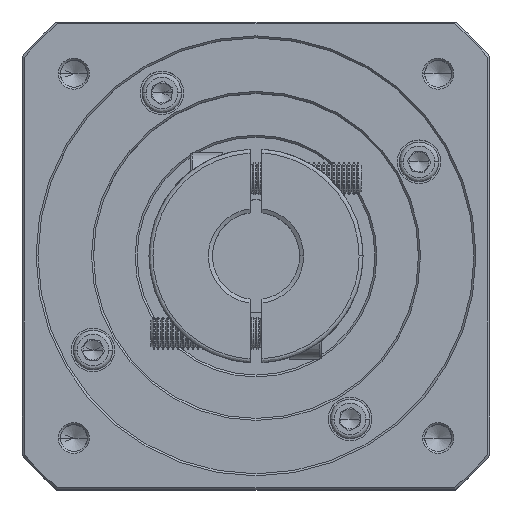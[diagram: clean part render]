
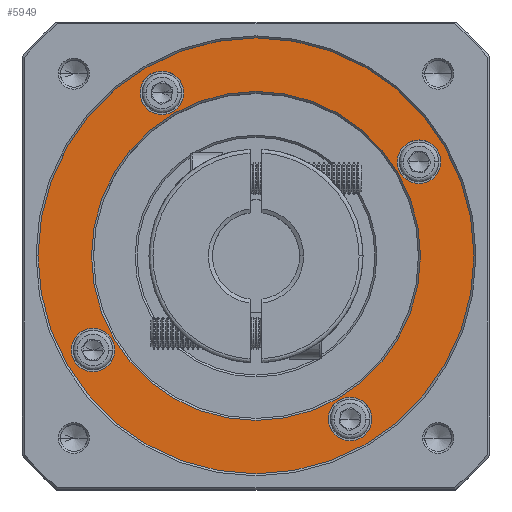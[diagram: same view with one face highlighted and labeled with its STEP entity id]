
A CAD part, top view. The second image highlights one B-rep face of the part: STEP entity #5949.
In plain terms, the highlighted planar face has unit normal (0, 0, 1).
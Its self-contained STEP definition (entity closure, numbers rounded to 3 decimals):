
#337 = CARTESIAN_POINT ( 'NONE',  ( -185.069, 37.577, 88.309 ) ) ;
#419 = EDGE_CURVE ( 'NONE', #9723, #69107, #16807, .T. ) ;
#696 = CARTESIAN_POINT ( 'NONE',  ( -162.182, 102.463, 88.309 ) ) ;
#2002 = CARTESIAN_POINT ( 'NONE',  ( -143.932, 61.327, 88.309 ) ) ;
#2693 = CIRCLE ( 'NONE', #75234, 5.5 ) ;
#3544 = DIRECTION ( 'NONE',  ( 0., 0., 1. ) ) ;
#5425 = EDGE_CURVE ( 'NONE', #46504, #36076, #98939, .T. ) ;
#5807 = AXIS2_PLACEMENT_3D ( 'NONE', #15277, #3544, #102296 ) ;
#5811 = AXIS2_PLACEMENT_3D ( 'NONE', #337, #128366, #40549 ) ;
#5949 = ADVANCED_FACE ( 'NONE', ( #39740, #24234, #47445, #7226, #73811, #56744 ), #40525, .T. ) ;
#6702 = AXIS2_PLACEMENT_3D ( 'NONE', #33035, #112175, #73301 ) ;
#7226 = FACE_BOUND ( 'NONE', #11994, .T. ) ;
#9723 = VERTEX_POINT ( 'NONE', #117013 ) ;
#10244 = CIRCLE ( 'NONE', #98688, 5.5 ) ;
#11163 = CIRCLE ( 'NONE', #60815, 41.5 ) ;
#11943 = ORIENTED_EDGE ( 'NONE', *, *, #92673, .T. ) ;
#11994 = EDGE_LOOP ( 'NONE', ( #19632, #46189 ) ) ;
#12181 = DIRECTION ( 'NONE',  ( 1., 0., 0. ) ) ;
#13741 = ORIENTED_EDGE ( 'NONE', *, *, #41907, .T. ) ;
#14972 = VERTEX_POINT ( 'NONE', #51881 ) ;
#15277 = CARTESIAN_POINT ( 'NONE',  ( -143.932, 61.327, 88.309 ) ) ;
#16807 = CIRCLE ( 'NONE', #23275, 5.5 ) ;
#18294 = CARTESIAN_POINT ( 'NONE',  ( -120.182, 20.191, 88.309 ) ) ;
#18725 = ORIENTED_EDGE ( 'NONE', *, *, #81546, .T. ) ;
#19548 = DIRECTION ( 'NONE',  ( 0., 0., -1. ) ) ;
#19632 = ORIENTED_EDGE ( 'NONE', *, *, #63250, .T. ) ;
#20990 = DIRECTION ( 'NONE',  ( 0., 0., -1. ) ) ;
#22978 = DIRECTION ( 'NONE',  ( 0., 0., -1. ) ) ;
#23275 = AXIS2_PLACEMENT_3D ( 'NONE', #30900, #20990, #102771 ) ;
#24234 = FACE_BOUND ( 'NONE', #110293, .T. ) ;
#26481 = EDGE_CURVE ( 'NONE', #85573, #66626, #11163, .T. ) ;
#27582 = VERTEX_POINT ( 'NONE', #72362 ) ;
#28963 = CIRCLE ( 'NONE', #118243, 5.5 ) ;
#30665 = DIRECTION ( 'NONE',  ( 0., 0., -1. ) ) ;
#30739 = VERTEX_POINT ( 'NONE', #111255 ) ;
#30900 = CARTESIAN_POINT ( 'NONE',  ( -167.682, 102.463, 88.309 ) ) ;
#31172 = VERTEX_POINT ( 'NONE', #32369 ) ;
#31605 = ORIENTED_EDGE ( 'NONE', *, *, #419, .T. ) ;
#32369 = CARTESIAN_POINT ( 'NONE',  ( -190.569, 37.577, 88.309 ) ) ;
#32883 = CARTESIAN_POINT ( 'NONE',  ( -102.796, 85.077, 88.309 ) ) ;
#33035 = CARTESIAN_POINT ( 'NONE',  ( -120.182, 20.191, 88.309 ) ) ;
#35453 = AXIS2_PLACEMENT_3D ( 'NONE', #105286, #64990, #114694 ) ;
#36076 = VERTEX_POINT ( 'NONE', #47706 ) ;
#36524 = CARTESIAN_POINT ( 'NONE',  ( -125.682, 20.191, 88.309 ) ) ;
#37277 = DIRECTION ( 'NONE',  ( 1., 0., 0. ) ) ;
#38143 = DIRECTION ( 'NONE',  ( 1., 0., 0. ) ) ;
#38211 = CIRCLE ( 'NONE', #41260, 5.5 ) ;
#38233 = EDGE_LOOP ( 'NONE', ( #127459, #31605 ) ) ;
#39740 = FACE_OUTER_BOUND ( 'NONE', #57928, .T. ) ;
#40525 = PLANE ( 'NONE',  #51488 ) ;
#40549 = DIRECTION ( 'NONE',  ( 1., 0., 0. ) ) ;
#40602 = CARTESIAN_POINT ( 'NONE',  ( -143.932, 61.327, 88.309 ) ) ;
#41260 = AXIS2_PLACEMENT_3D ( 'NONE', #71237, #123453, #54225 ) ;
#41816 = CIRCLE ( 'NONE', #6702, 5.5 ) ;
#41907 = EDGE_CURVE ( 'NONE', #66626, #85573, #87735, .T. ) ;
#42255 = CARTESIAN_POINT ( 'NONE',  ( -179.569, 37.577, 88.309 ) ) ;
#45873 = EDGE_CURVE ( 'NONE', #14972, #27582, #10244, .T. ) ;
#46189 = ORIENTED_EDGE ( 'NONE', *, *, #103500, .T. ) ;
#46504 = VERTEX_POINT ( 'NONE', #50283 ) ;
#47445 = FACE_BOUND ( 'NONE', #74725, .T. ) ;
#47639 = AXIS2_PLACEMENT_3D ( 'NONE', #57605, #87082, #118585 ) ;
#47706 = CARTESIAN_POINT ( 'NONE',  ( -198.932, 61.327, 88.309 ) ) ;
#50283 = CARTESIAN_POINT ( 'NONE',  ( -88.932, 61.327, 88.309 ) ) ;
#50433 = DIRECTION ( 'NONE',  ( 1., 0., 0. ) ) ;
#51488 = AXIS2_PLACEMENT_3D ( 'NONE', #2002, #99467, #50433 ) ;
#51881 = CARTESIAN_POINT ( 'NONE',  ( -97.296, 85.077, 88.309 ) ) ;
#53726 = VERTEX_POINT ( 'NONE', #36524 ) ;
#54225 = DIRECTION ( 'NONE',  ( 1., 0., 0. ) ) ;
#56744 = FACE_BOUND ( 'NONE', #111761, .T. ) ;
#57266 = DIRECTION ( 'NONE',  ( 1., 0., 0. ) ) ;
#57605 = CARTESIAN_POINT ( 'NONE',  ( -143.932, 61.327, 88.309 ) ) ;
#57928 = EDGE_LOOP ( 'NONE', ( #99968, #18725 ) ) ;
#58108 = CARTESIAN_POINT ( 'NONE',  ( -167.682, 102.463, 88.309 ) ) ;
#60791 = AXIS2_PLACEMENT_3D ( 'NONE', #18294, #19548, #38143 ) ;
#60815 = AXIS2_PLACEMENT_3D ( 'NONE', #40602, #30665, #99960 ) ;
#61551 = CIRCLE ( 'NONE', #60791, 5.5 ) ;
#63250 = EDGE_CURVE ( 'NONE', #30739, #53726, #41816, .T. ) ;
#64990 = DIRECTION ( 'NONE',  ( 0., 0., 1. ) ) ;
#65731 = EDGE_CURVE ( 'NONE', #77216, #31172, #70905, .T. ) ;
#66626 = VERTEX_POINT ( 'NONE', #94073 ) ;
#69077 = ORIENTED_EDGE ( 'NONE', *, *, #111218, .T. ) ;
#69107 = VERTEX_POINT ( 'NONE', #696 ) ;
#70905 = CIRCLE ( 'NONE', #5811, 5.5 ) ;
#71237 = CARTESIAN_POINT ( 'NONE',  ( -185.069, 37.577, 88.309 ) ) ;
#72362 = CARTESIAN_POINT ( 'NONE',  ( -108.296, 85.077, 88.309 ) ) ;
#73301 = DIRECTION ( 'NONE',  ( 1., 0., 0. ) ) ;
#73811 = FACE_BOUND ( 'NONE', #38233, .T. ) ;
#74725 = EDGE_LOOP ( 'NONE', ( #96595, #69077 ) ) ;
#75234 = AXIS2_PLACEMENT_3D ( 'NONE', #32883, #22978, #12181 ) ;
#77216 = VERTEX_POINT ( 'NONE', #42255 ) ;
#78418 = CARTESIAN_POINT ( 'NONE',  ( -102.796, 85.077, 88.309 ) ) ;
#81546 = EDGE_CURVE ( 'NONE', #36076, #46504, #110151, .T. ) ;
#85573 = VERTEX_POINT ( 'NONE', #127321 ) ;
#87082 = DIRECTION ( 'NONE',  ( 0., 0., -1. ) ) ;
#87170 = DIRECTION ( 'NONE',  ( 0., 0., -1. ) ) ;
#87735 = CIRCLE ( 'NONE', #47639, 41.5 ) ;
#92673 = EDGE_CURVE ( 'NONE', #31172, #77216, #38211, .T. ) ;
#94073 = CARTESIAN_POINT ( 'NONE',  ( -143.932, 19.827, 88.309 ) ) ;
#96586 = DIRECTION ( 'NONE',  ( 0., 0., -1. ) ) ;
#96595 = ORIENTED_EDGE ( 'NONE', *, *, #45873, .T. ) ;
#97805 = EDGE_CURVE ( 'NONE', #69107, #9723, #28963, .T. ) ;
#98125 = ORIENTED_EDGE ( 'NONE', *, *, #26481, .T. ) ;
#98688 = AXIS2_PLACEMENT_3D ( 'NONE', #78418, #96586, #37277 ) ;
#98939 = CIRCLE ( 'NONE', #5807, 55. ) ;
#99467 = DIRECTION ( 'NONE',  ( 0., 0., 1. ) ) ;
#99960 = DIRECTION ( 'NONE',  ( 0., -1., 0. ) ) ;
#99968 = ORIENTED_EDGE ( 'NONE', *, *, #5425, .T. ) ;
#102296 = DIRECTION ( 'NONE',  ( 1., 0., 0. ) ) ;
#102771 = DIRECTION ( 'NONE',  ( 1., 0., 0. ) ) ;
#103500 = EDGE_CURVE ( 'NONE', #53726, #30739, #61551, .T. ) ;
#105286 = CARTESIAN_POINT ( 'NONE',  ( -143.932, 61.327, 88.309 ) ) ;
#110151 = CIRCLE ( 'NONE', #35453, 55. ) ;
#110293 = EDGE_LOOP ( 'NONE', ( #13741, #98125 ) ) ;
#111218 = EDGE_CURVE ( 'NONE', #27582, #14972, #2693, .T. ) ;
#111255 = CARTESIAN_POINT ( 'NONE',  ( -114.682, 20.191, 88.309 ) ) ;
#111761 = EDGE_LOOP ( 'NONE', ( #126819, #11943 ) ) ;
#112175 = DIRECTION ( 'NONE',  ( 0., 0., -1. ) ) ;
#114694 = DIRECTION ( 'NONE',  ( 1., 0., 0. ) ) ;
#117013 = CARTESIAN_POINT ( 'NONE',  ( -173.182, 102.463, 88.309 ) ) ;
#118243 = AXIS2_PLACEMENT_3D ( 'NONE', #58108, #87170, #57266 ) ;
#118585 = DIRECTION ( 'NONE',  ( 0., -1., 0. ) ) ;
#123453 = DIRECTION ( 'NONE',  ( 0., 0., -1. ) ) ;
#126819 = ORIENTED_EDGE ( 'NONE', *, *, #65731, .T. ) ;
#127321 = CARTESIAN_POINT ( 'NONE',  ( -143.932, 102.827, 88.309 ) ) ;
#127459 = ORIENTED_EDGE ( 'NONE', *, *, #97805, .T. ) ;
#128366 = DIRECTION ( 'NONE',  ( 0., 0., -1. ) ) ;
